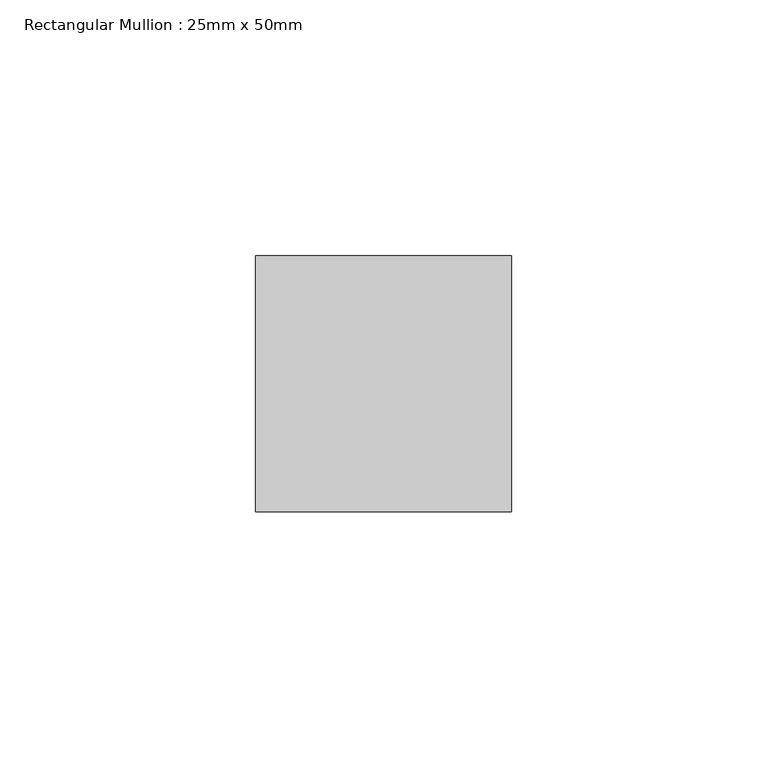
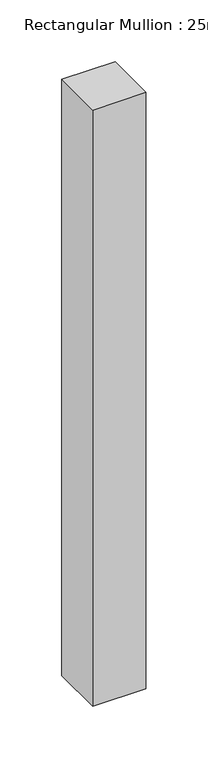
"""IFC4 building model written with IfcOpenShell, lengths in millimetres: member geometry, Rectangular Mullion : 25mm x 50mm."""

from ifc_helpers import new_model, si_unit, frame, origin, place, context, project, spatial, polyline, outline, extrude, source, transform, mapped, element, save


def rectangular_mullion_25mm_x_50mm_7ee14594(model_context):
    return source(origin(), model_context, "Body", "SweptSolid", [
        extrude(outline(polyline([(0.0, 25.0), (0.0, -25.0), (-50.0, -25.0), (-50.0, 25.0), (0.0, 25.0)])), frame((0.0, 0.0, -590.0), z_axis=(0.0, 0.0, 1.0), x_axis=(1.0, 0.0, 0.0)), (0.0, 0.0, 1.0), 590.0),
    ])


if __name__ == "__main__":
    model = new_model("IFC4")
    model_context = context("Model", 3, world=origin())
    ifc_project = project(units=[si_unit("LENGTHUNIT", "METRE", prefix="MILLI")], contexts=[model_context])
    site = spatial("IfcSite", under=ifc_project)
    building = spatial("IfcBuilding", under=site)
    placement = place(None, origin())
    rectangular_mullion_25mm_x_50mm_shape = rectangular_mullion_25mm_x_50mm_7ee14594(model_context)
    element("IfcMember", 1, ObjectType="Rectangular Mullion : 25mm x 50mm", at=placement, inside=building, context=model_context, shape_type="MappedRepresentation", body=[
        mapped(rectangular_mullion_25mm_x_50mm_shape, transform((0.0, 0.0, 0.0), x_axis=(1.0, 0.0, 0.0), y_axis=(0.0, 1.0, 0.0), z_axis=(0.0, 0.0, 1.0))),
    ])
    save(model, "model.ifc")
